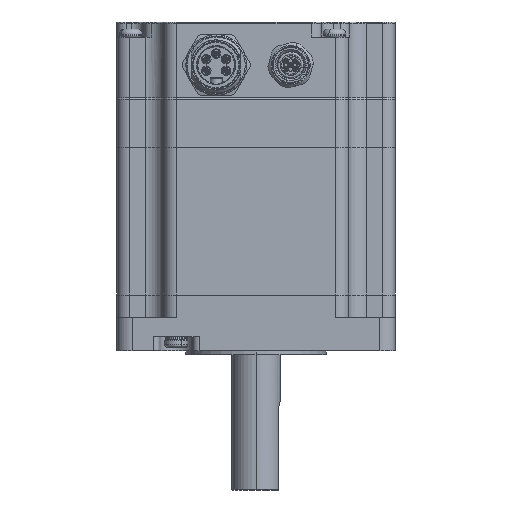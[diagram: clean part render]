
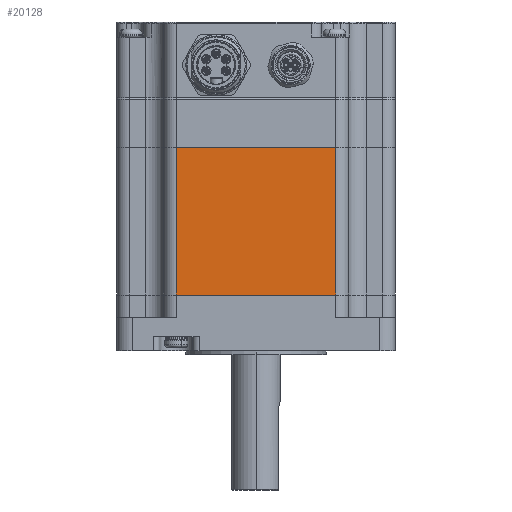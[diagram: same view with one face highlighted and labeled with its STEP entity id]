
A CAD part, left-side view. The second image highlights one B-rep face of the part: STEP entity #20128.
In plain terms, the highlighted planar face has unit normal (-1, 0, 0).
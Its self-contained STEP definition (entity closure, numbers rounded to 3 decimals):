
#12886 = LINE ( 'NONE', #45499, #18421 ) ;
#18421 = VECTOR ( 'NONE', #76451, 1000. ) ;
#20128 = ADVANCED_FACE ( 'NONE', ( #98203 ), #23906, .T. ) ;
#22221 = DIRECTION ( 'NONE',  ( 0., -1., 0. ) ) ;
#23906 = PLANE ( 'NONE',  #68466 ) ;
#27518 = VERTEX_POINT ( 'NONE', #94496 ) ;
#30094 = EDGE_CURVE ( 'NONE', #102781, #61330, #12886, .T. ) ;
#32215 = CARTESIAN_POINT ( 'NONE',  ( -55., 31.5, -2.8 ) ) ;
#32395 = CARTESIAN_POINT ( 'NONE',  ( -55., -31.5, -2.8 ) ) ;
#37082 = VERTEX_POINT ( 'NONE', #32215 ) ;
#38068 = LINE ( 'NONE', #45609, #62670 ) ;
#40629 = EDGE_CURVE ( 'NONE', #27518, #61330, #82592, .T. ) ;
#45499 = CARTESIAN_POINT ( 'NONE',  ( -55., 31.5, 55.62 ) ) ;
#45609 = CARTESIAN_POINT ( 'NONE',  ( -55., 31.5, -2.8 ) ) ;
#48429 = DIRECTION ( 'NONE',  ( 0., -1., 0. ) ) ;
#48975 = DIRECTION ( 'NONE',  ( 0., 0., 1. ) ) ;
#56355 = CARTESIAN_POINT ( 'NONE',  ( -55., -31.5, 55.62 ) ) ;
#57497 = DIRECTION ( 'NONE',  ( -1., 0., 0. ) ) ;
#60278 = VECTOR ( 'NONE', #48975, 1000. ) ;
#61330 = VERTEX_POINT ( 'NONE', #56355 ) ;
#62670 = VECTOR ( 'NONE', #102256, 1000. ) ;
#62791 = CARTESIAN_POINT ( 'NONE',  ( -55., 31.5, -2.8 ) ) ;
#68466 = AXIS2_PLACEMENT_3D ( 'NONE', #98739, #57497, #48429 ) ;
#75843 = ORIENTED_EDGE ( 'NONE', *, *, #78768, .T. ) ;
#75988 = VECTOR ( 'NONE', #22221, 1000. ) ;
#76451 = DIRECTION ( 'NONE',  ( 0., -1., 0. ) ) ;
#78768 = EDGE_CURVE ( 'NONE', #37082, #27518, #103450, .T. ) ;
#79461 = CARTESIAN_POINT ( 'NONE',  ( -55., 31.5, 55.62 ) ) ;
#81111 = ORIENTED_EDGE ( 'NONE', *, *, #30094, .F. ) ;
#82592 = LINE ( 'NONE', #32395, #60278 ) ;
#86949 = EDGE_LOOP ( 'NONE', ( #81111, #91044, #75843, #101262 ) ) ;
#91044 = ORIENTED_EDGE ( 'NONE', *, *, #102401, .F. ) ;
#94496 = CARTESIAN_POINT ( 'NONE',  ( -55., -31.5, -2.8 ) ) ;
#98203 = FACE_OUTER_BOUND ( 'NONE', #86949, .T. ) ;
#98739 = CARTESIAN_POINT ( 'NONE',  ( -55., 31.5, -2.8 ) ) ;
#101262 = ORIENTED_EDGE ( 'NONE', *, *, #40629, .T. ) ;
#102256 = DIRECTION ( 'NONE',  ( 0., 0., 1. ) ) ;
#102401 = EDGE_CURVE ( 'NONE', #37082, #102781, #38068, .T. ) ;
#102781 = VERTEX_POINT ( 'NONE', #79461 ) ;
#103450 = LINE ( 'NONE', #62791, #75988 ) ;
